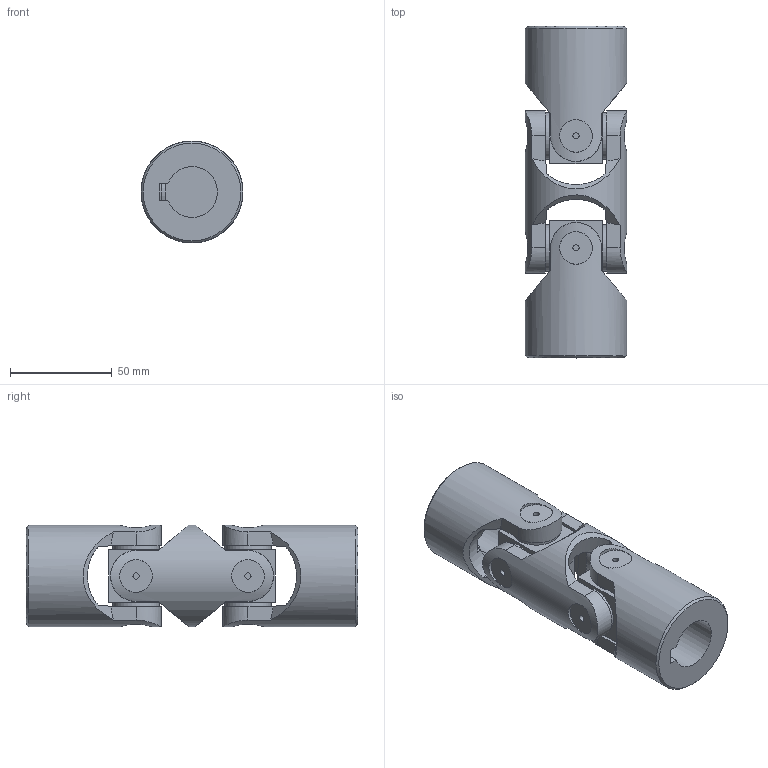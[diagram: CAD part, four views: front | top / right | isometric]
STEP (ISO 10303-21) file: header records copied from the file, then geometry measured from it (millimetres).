
FILE_DESCRIPTION(/* description */ (''),/* implementation_level */ '2;1');
FILE_NAME(/* name */ '\\SRV2016\Societa\Stefano\Disegni 3D\00Catalogo 3D\02Doppi GD-GBD\SG0D252C.stp',/* time_stamp */ '2021-11-23T15:37:03+01:00',/* author */ ('acquisti'),/* organization */ (''),/* preprocessor_version */ 'ST-DEVELOPER v15.6',/* originating_system */ 'Autodesk Inventor 2015',/* authorisation */ '');
FILE_SCHEMA (('AUTOMOTIVE_DESIGN { 1 0 10303 214 3 1 1 }'));
Length unit declared in the file: millimetre
Products named in the file (4): 5G MOD; 5G SFE; 5G MOC; Ø50_5GD-00_SG0D2500
Assembly tree (5 placements, depth 2):
  Ø50_5GD-00_SG0D2500
    5G MOD
    5G SFE  x2
    5G MOC  x2
Bounding box: 50 x 163 x 50 mm (x, y, z)
Volume: 206109.3 mm3; surface area: 52390 mm2
Topology: 5 solids, 5 shells, 143 faces, 351 edges, 238 vertices
Faces by surface type: plane 76, cylinder 41, cone 22, torus 4
Full cylindrical faces by diameter (mm): 3 x8, 16 x8, 23 x8, 28 x2, 50 x3
Entity records: 3474 total; most frequent: CARTESIAN_POINT 1278, ORIENTED_EDGE 428, DIRECTION 413, EDGE_CURVE 214, AXIS2_PLACEMENT_3D 178, VERTEX_POINT 162, EDGE_LOOP 140, FACE_OUTER_BOUND 97
